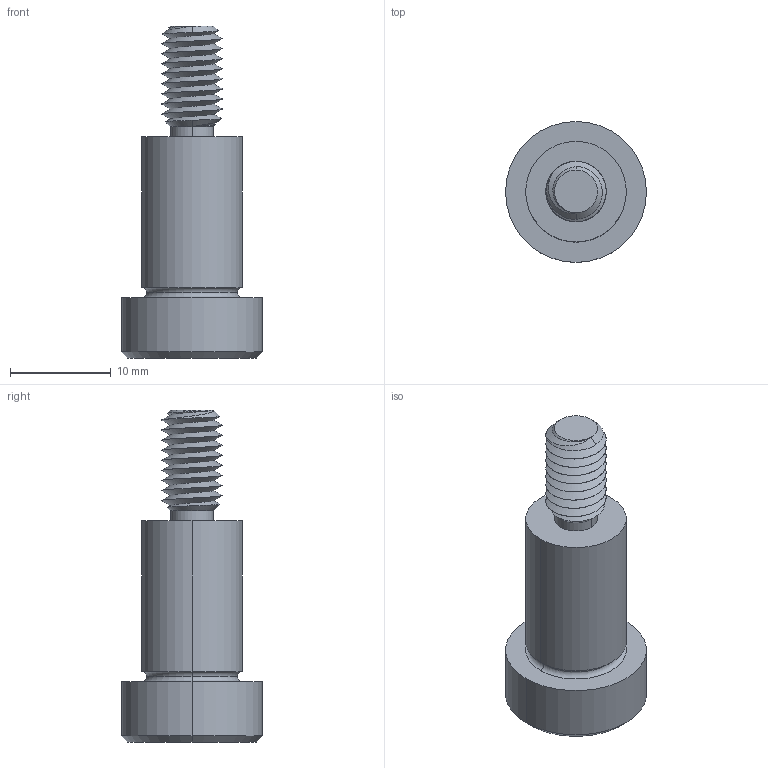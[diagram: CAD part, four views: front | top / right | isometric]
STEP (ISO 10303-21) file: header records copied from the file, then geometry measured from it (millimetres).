
FILE_DESCRIPTION (( 'STEP AP203' ), '1' );
FILE_NAME ('P0130.100-016-B6.step', '2021-11-09T21:48:51', ( '' ), ( '' ), 'SwSTEP 2.0', 'SolidWorks 2019', '' );
FILE_SCHEMA (( 'CONFIG_CONTROL_DESIGN' ));
Length unit declared in the file: millimetre
Products named in the file (1): P0130.100-016-B6
Bounding box: 14 x 14 x 33 mm (x, y, z)
Volume: 2322 mm3; surface area: 1453.2 mm2
Topology: 1 solids, 1 shells, 60 faces, 142 edges, 85 vertices
Faces by surface type: cylinder 24, plane 16, cone 14, torus 4, bspline 2
Entity records: 4245 total; most frequent: CARTESIAN_POINT 2899, ORIENTED_EDGE 280, DIRECTION 247, EDGE_CURVE 140, AXIS2_PLACEMENT_3D 99, VERTEX_POINT 85, EDGE_LOOP 63, FACE_OUTER_BOUND 60
